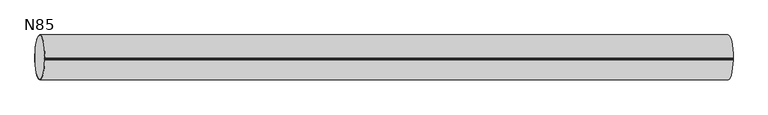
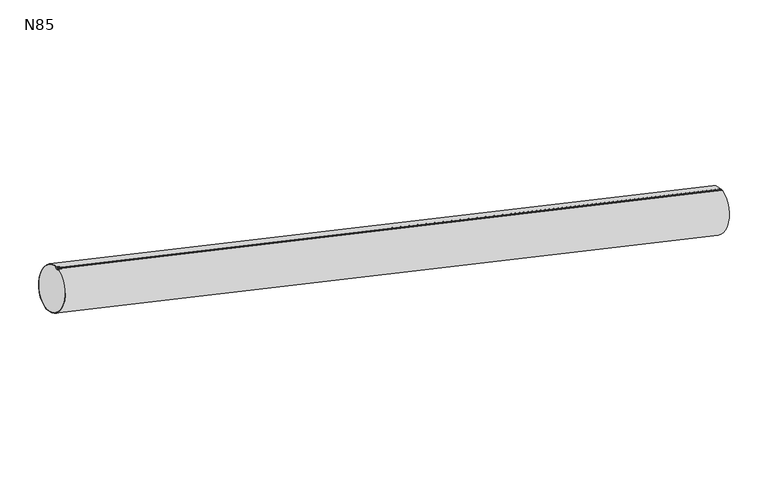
"""IFC4 building model written with IfcOpenShell, lengths in millimetres: proxy geometry, GROVIK_Downpipe_Straight_Sloped : N85."""

from ifc_helpers import new_model, si_unit, frame, origin, place, context, project, spatial, polyline, circle_curve, source, transform, mapped, element, save
from ifc_brep_helpers import plane_surface, cylinder_surface, revolved_surface, advanced_brep


def n85_0d5e0962(model_context):
    return source(origin(), model_context, "Body", "AdvancedBrep", [
        advanced_brep(
        [(104.8433936, -4.7799116, -72.3091103), (104.771862, -3.8941646, -72.6262293), (104.3758838, -2.8, -74.3817081), (104.8969007, -1.5, -72.0718988), (104.6249709, -4.6586072, -73.2774376), (104.6688184, 2.286461, -73.0830499), (103.9798142, 2.2, -76.1375922), (103.9798142, -1.4, -76.1375922), (104.2658645, -3.6663266, -74.8694537), (1413.7412264, -4.7799116, -367.5533456), (1413.7947335, -1.5, -367.3161341), (1413.2737166, -2.8, -369.6259434), (1413.6696948, -3.8941646, -367.8704646), (1413.5228037, -4.6586072, -368.5216729), (1413.1636973, -3.6663266, -370.113689), (1412.877647, -1.4, -371.3818275), (1412.877647, 2.2, -371.3818275), (1413.5655699, 2.2861899, -368.3320786)],
        [
            (0, 1, circle_curve(frame((104.6131258, -4.6614631, -73.3299502), z_axis=(-0.9754911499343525, 0.0, 0.22003867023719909), x_axis=(0.0, -1.0, 0.0)), 1.0531701)),
            (1, 2),
            (2, 3, circle_curve(frame((104.549691, -1.4323114, -73.6111739), z_axis=(-0.9754911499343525, 0.0, 0.22003867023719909), x_axis=(0.0, -1.0, 0.0)), 1.5793999)),
            (3, 0, circle_curve(frame((95.5510836, 0.0, -113.5044428), z_axis=(-0.9754911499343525, 0.0, 0.22003867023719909), x_axis=(0.0, -1.0, 0.0)), 42.5)),
            (4, 5, circle_curve(frame((95.5510836, 0.0, -113.5044428), z_axis=(0.9754911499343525, 0.0, -0.22003867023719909), x_axis=(0.0, -1.0, 0.0)), 41.5)),
            (5, 6, circle_curve(frame((104.3240371, 2.2, -74.6115588), z_axis=(-0.9754911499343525, 0.0, 0.22003867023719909), x_axis=(0.0, -1.0, 0.0)), 1.5643744)),
            (6, 7),
            (7, 8, circle_curve(frame((104.5752497, -1.3537816, -73.4978649), z_axis=(-0.9754911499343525, 0.0, 0.22003867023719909), x_axis=(0.0, -1.0, 0.0)), 2.7064441)),
            (8, 4),
            (9, 10, circle_curve(frame((1404.4489164, 0.0, -408.7486781), z_axis=(0.9754911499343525, 0.0, -0.22003867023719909), x_axis=(0.0, -1.0, 0.0)), 42.5)),
            (10, 11, circle_curve(frame((1413.4475238, -1.4323114, -368.8554092), z_axis=(0.9754911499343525, 0.0, -0.22003867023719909), x_axis=(0.0, -1.0, 0.0)), 1.5793999)),
            (11, 12),
            (12, 9, circle_curve(frame((1413.5109586, -4.6614631, -368.5741855), z_axis=(0.9754911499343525, 0.0, -0.22003867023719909), x_axis=(0.0, -1.0, 0.0)), 1.0531701)),
            (13, 14),
            (14, 15, circle_curve(frame((1413.4730825, -1.3537816, -368.7421002), z_axis=(0.9754911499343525, 0.0, -0.22003867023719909), x_axis=(0.0, -1.0, 0.0)), 2.7064441)),
            (15, 16),
            (16, 17, circle_curve(frame((1413.2218699, 2.2, -369.8557941), z_axis=(0.9754911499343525, 0.0, -0.22003867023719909), x_axis=(0.0, -1.0, 0.0)), 1.5643744)),
            (17, 13, circle_curve(frame((1404.4489164, 0.0, -408.7486781), z_axis=(-0.9754911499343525, 0.0, 0.22003867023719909), x_axis=(0.0, -1.0, 0.0)), 41.5)),
            (4, 13),
            (17, 5),
            (16, 6),
            (15, 7),
            (14, 8),
            (0, 9),
            (12, 1),
            (11, 2),
            (10, 3),
        ],
        [
            plane_surface(frame((95.5510836, 0.0, -113.5044428), z_axis=(-0.9754911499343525, 0.0, 0.22003867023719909), x_axis=(0.0, -1.0, 0.0))),
            plane_surface(frame((1404.4489164, 0.0, -408.7486781), z_axis=(0.9754911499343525, 0.0, -0.22003867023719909), x_axis=(0.0, -1.0, 0.0))),
            revolved_surface(polyline([(1404.4489164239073, -41.5, -408.7486781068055), (95.5510836, -41.5, -113.5044428)]), (95.5510836, 0.0, -113.5044428), (0.9754911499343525, 0.0, -0.22003867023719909)),
            cylinder_surface(frame((104.3240371, 2.2, -74.6115588), z_axis=(-0.9754911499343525, 0.0, 0.22003867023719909), x_axis=(0.0, -1.0, 0.0)), 1.5643744),
            plane_surface(frame((103.9798142, 2.2, -76.1375922), z_axis=(-0.2200386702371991, 0.0, -0.9754911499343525), x_axis=(0.9754911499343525, 0.0, -0.2200386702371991))),
            cylinder_surface(frame((104.5752497, -1.3537816, -73.4978649), z_axis=(-0.9754911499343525, 0.0, 0.22003867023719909), x_axis=(0.0, -1.0, 0.0)), 2.7064441),
            plane_surface(frame((104.2658645, -3.6663266, -74.8694537), z_axis=(-0.11431429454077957, -0.8544588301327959, -0.5067862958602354), x_axis=(0.9754911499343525, 0.0, -0.22003867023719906))),
            cylinder_surface(frame((104.6131258, -4.6614631, -73.3299502), z_axis=(-0.9754911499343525, 0.0, 0.22003867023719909), x_axis=(0.0, -1.0, 0.0)), 1.0531701),
            plane_surface(frame((104.771862, -3.8941646, -72.6262293), z_axis=(0.11431429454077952, 0.854458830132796, 0.5067862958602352), x_axis=(0.9754911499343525, 0.0, -0.22003867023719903))),
            cylinder_surface(frame((104.549691, -1.4323114, -73.6111739), z_axis=(-0.9754911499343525, 0.0, 0.22003867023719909), x_axis=(0.0, -1.0, 0.0)), 1.5793999),
            cylinder_surface(frame((95.5510836, 0.0, -113.5044428), z_axis=(-0.9754911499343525, 0.0, 0.22003867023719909), x_axis=(0.0, -1.0, 0.0)), 42.5),
        ],
        [
            (0, [[1, 2, 3, 4], [5, 6, 7, 8, 9]]),
            (1, [[10, 11, 12, 13], [14, 15, 16, 17, 18]]),
            (2, [[-5, 19, -18, 20]]),
            (3, [[-6, -20, -17, 21]]),
            (4, [[-7, -21, -16, 22]]),
            (5, [[-8, -22, -15, 23]]),
            (6, [[-9, -23, -14, -19]]),
            (7, [[-1, 24, -13, 25]]),
            (8, [[-2, -25, -12, 26]]),
            (9, [[-3, -26, -11, 27]]),
            (10, [[-4, -27, -10, -24]]),
        ],
    ),
    ])


if __name__ == "__main__":
    model = new_model("IFC4")
    model_context = context("Model", 3, world=origin())
    ifc_project = project(units=[si_unit("LENGTHUNIT", "METRE", prefix="MILLI")], contexts=[model_context])
    site = spatial("IfcSite", under=ifc_project)
    building = spatial("IfcBuilding", under=site)
    placement = place(None, origin())
    n85_shape = n85_0d5e0962(model_context)
    element("IfcBuildingElementProxy", 1, Name="GROVIK_Downpipe_Straight_Sloped : N85", ObjectType="GROVIK_Downpipe_Straight_Sloped : N85", at=placement, inside=building, context=model_context, shape_type="MappedRepresentation", body=[
        mapped(n85_shape, transform((0.0, 0.0, 0.0), x_axis=(1.0, 0.0, 0.0), y_axis=(0.0, 1.0, 0.0), z_axis=(0.0, 0.0, 1.0))),
    ])
    save(model, "model.ifc")
